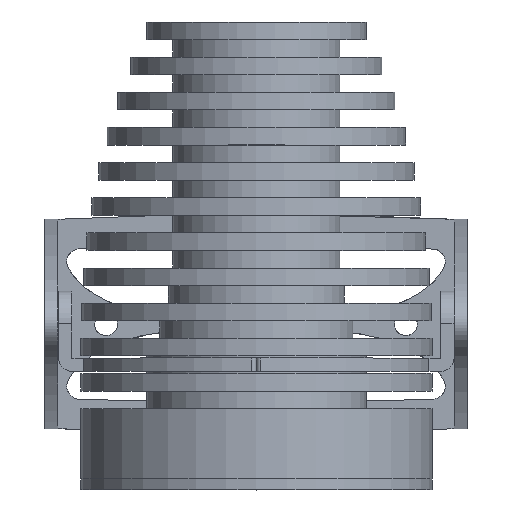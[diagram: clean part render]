
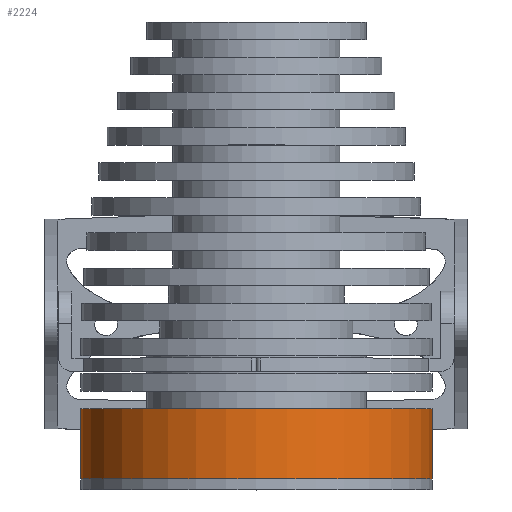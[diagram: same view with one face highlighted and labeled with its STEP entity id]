
A CAD part, front view. The second image highlights one B-rep face of the part: STEP entity #2224.
In plain terms, the highlighted cylindrical face has radius 40 mm (diameter 80 mm), a full revolution.
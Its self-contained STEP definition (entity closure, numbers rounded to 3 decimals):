
#274=LINE('',#4706,#429);
#429=VECTOR('',#3114,40.);
#485=CYLINDRICAL_SURFACE('',#2480,40.);
#629=FACE_OUTER_BOUND('',#798,.T.);
#798=EDGE_LOOP('',(#2011,#2012,#2013,#2014));
#908=CIRCLE('',#2479,40.);
#909=CIRCLE('',#2481,40.);
#1096=VERTEX_POINT('',#4701);
#1097=VERTEX_POINT('',#4705);
#1403=EDGE_CURVE('',#1096,#1096,#908,.T.);
#1404=EDGE_CURVE('',#1096,#1097,#274,.T.);
#1405=EDGE_CURVE('',#1097,#1097,#909,.T.);
#2011=ORIENTED_EDGE('',*,*,#1403,.T.);
#2012=ORIENTED_EDGE('',*,*,#1404,.T.);
#2013=ORIENTED_EDGE('',*,*,#1405,.F.);
#2014=ORIENTED_EDGE('',*,*,#1404,.F.);
#2224=ADVANCED_FACE('',(#629),#485,.T.);
#2479=AXIS2_PLACEMENT_3D('',#4703,#3110,#3111);
#2480=AXIS2_PLACEMENT_3D('',#4704,#3112,#3113);
#2481=AXIS2_PLACEMENT_3D('',#4707,#3115,#3116);
#3110=DIRECTION('center_axis',(0.,0.,
-1.));
#3111=DIRECTION('ref_axis',(-1.,0.,0.));
#3112=DIRECTION('center_axis',(0.,0.,
1.));
#3113=DIRECTION('ref_axis',(-1.,0.,0.));
#3114=DIRECTION('',(0.,0.,-1.));
#3115=DIRECTION('center_axis',(0.,0.,
-1.));
#3116=DIRECTION('ref_axis',(-1.,0.,0.));
#4701=CARTESIAN_POINT('',(-655.217,2208.723,75.732));
#4703=CARTESIAN_POINT('Origin',(-695.217,2208.723,75.732));
#4704=CARTESIAN_POINT('Origin',(-695.217,2208.717,59.732));
#4705=CARTESIAN_POINT('',(-655.217,2208.717,59.732));
#4706=CARTESIAN_POINT('',(-655.217,2208.717,59.732));
#4707=CARTESIAN_POINT('Origin',(-695.217,2208.717,59.732));
